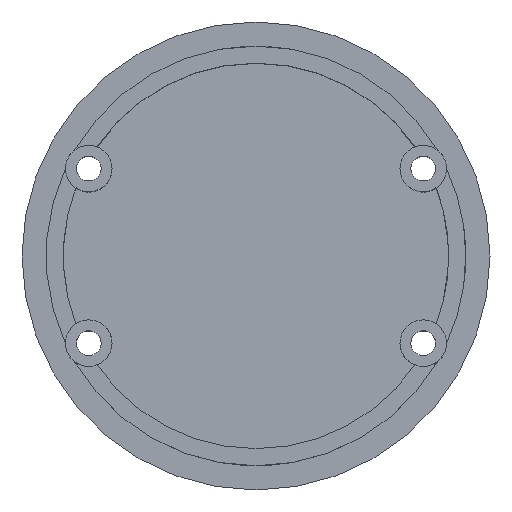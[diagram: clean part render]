
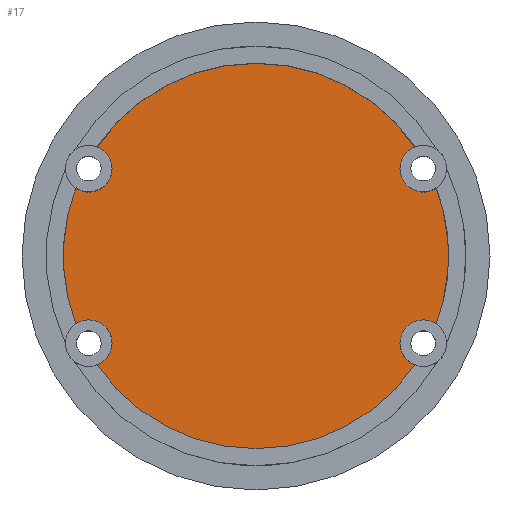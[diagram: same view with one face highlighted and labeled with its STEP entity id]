
A CAD part, top view. The second image highlights one B-rep face of the part: STEP entity #17.
In plain terms, the highlighted planar face has unit normal (0, 0, 1).
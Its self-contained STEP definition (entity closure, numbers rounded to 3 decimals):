
#17 = ADVANCED_FACE('',(#18),#119,.T.);
#18 = FACE_BOUND('',#19,.T.);
#19 = EDGE_LOOP('',(#20,#31,#40,#49,#58,#67,#76,#85,#94,#103,#112));
#20 = ORIENTED_EDGE('',*,*,#21,.F.);
#21 = EDGE_CURVE('',#22,#24,#26,.T.);
#22 = VERTEX_POINT('',#23);
#23 = CARTESIAN_POINT('',(-21.854,-14.988,4.));
#24 = VERTEX_POINT('',#25);
#25 = CARTESIAN_POINT('',(-19.8,-12.,4.));
#26 = CIRCLE('',#27,3.2);
#27 = AXIS2_PLACEMENT_3D('',#28,#29,#30);
#28 = CARTESIAN_POINT('',(-23.,-12.,4.));
#29 = DIRECTION('',(0.,0.,1.));
#30 = DIRECTION('',(1.,0.,0.));
#31 = ORIENTED_EDGE('',*,*,#32,.T.);
#32 = EDGE_CURVE('',#22,#33,#35,.T.);
#33 = VERTEX_POINT('',#34);
#34 = CARTESIAN_POINT('',(21.854,-14.988,4.));
#35 = CIRCLE('',#36,26.5);
#36 = AXIS2_PLACEMENT_3D('',#37,#38,#39);
#37 = CARTESIAN_POINT('',(0.,0.,4.));
#38 = DIRECTION('',(0.,0.,1.));
#39 = DIRECTION('',(1.,0.,0.));
#40 = ORIENTED_EDGE('',*,*,#41,.F.);
#41 = EDGE_CURVE('',#42,#33,#44,.T.);
#42 = VERTEX_POINT('',#43);
#43 = CARTESIAN_POINT('',(24.795,-9.351,4.));
#44 = CIRCLE('',#45,3.2);
#45 = AXIS2_PLACEMENT_3D('',#46,#47,#48);
#46 = CARTESIAN_POINT('',(23.,-12.,4.));
#47 = DIRECTION('',(0.,0.,1.));
#48 = DIRECTION('',(1.,0.,0.));
#49 = ORIENTED_EDGE('',*,*,#50,.T.);
#50 = EDGE_CURVE('',#42,#51,#53,.T.);
#51 = VERTEX_POINT('',#52);
#52 = CARTESIAN_POINT('',(26.5,0.,4.));
#53 = CIRCLE('',#54,26.5);
#54 = AXIS2_PLACEMENT_3D('',#55,#56,#57);
#55 = CARTESIAN_POINT('',(0.,0.,4.));
#56 = DIRECTION('',(0.,0.,1.));
#57 = DIRECTION('',(1.,0.,0.));
#58 = ORIENTED_EDGE('',*,*,#59,.T.);
#59 = EDGE_CURVE('',#51,#60,#62,.T.);
#60 = VERTEX_POINT('',#61);
#61 = CARTESIAN_POINT('',(24.795,9.351,4.));
#62 = CIRCLE('',#63,26.5);
#63 = AXIS2_PLACEMENT_3D('',#64,#65,#66);
#64 = CARTESIAN_POINT('',(0.,0.,4.));
#65 = DIRECTION('',(0.,0.,1.));
#66 = DIRECTION('',(1.,0.,0.));
#67 = ORIENTED_EDGE('',*,*,#68,.F.);
#68 = EDGE_CURVE('',#69,#60,#71,.T.);
#69 = VERTEX_POINT('',#70);
#70 = CARTESIAN_POINT('',(21.854,14.988,4.));
#71 = CIRCLE('',#72,3.2);
#72 = AXIS2_PLACEMENT_3D('',#73,#74,#75);
#73 = CARTESIAN_POINT('',(23.,12.,4.));
#74 = DIRECTION('',(0.,0.,1.));
#75 = DIRECTION('',(1.,0.,0.));
#76 = ORIENTED_EDGE('',*,*,#77,.T.);
#77 = EDGE_CURVE('',#69,#78,#80,.T.);
#78 = VERTEX_POINT('',#79);
#79 = CARTESIAN_POINT('',(-21.854,14.988,4.));
#80 = CIRCLE('',#81,26.5);
#81 = AXIS2_PLACEMENT_3D('',#82,#83,#84);
#82 = CARTESIAN_POINT('',(0.,0.,4.));
#83 = DIRECTION('',(0.,0.,1.));
#84 = DIRECTION('',(1.,0.,0.));
#85 = ORIENTED_EDGE('',*,*,#86,.F.);
#86 = EDGE_CURVE('',#87,#78,#89,.T.);
#87 = VERTEX_POINT('',#88);
#88 = CARTESIAN_POINT('',(-19.8,12.,4.));
#89 = CIRCLE('',#90,3.2);
#90 = AXIS2_PLACEMENT_3D('',#91,#92,#93);
#91 = CARTESIAN_POINT('',(-23.,12.,4.));
#92 = DIRECTION('',(0.,0.,1.));
#93 = DIRECTION('',(1.,0.,0.));
#94 = ORIENTED_EDGE('',*,*,#95,.F.);
#95 = EDGE_CURVE('',#96,#87,#98,.T.);
#96 = VERTEX_POINT('',#97);
#97 = CARTESIAN_POINT('',(-24.795,9.351,4.));
#98 = CIRCLE('',#99,3.2);
#99 = AXIS2_PLACEMENT_3D('',#100,#101,#102);
#100 = CARTESIAN_POINT('',(-23.,12.,4.));
#101 = DIRECTION('',(0.,0.,1.));
#102 = DIRECTION('',(1.,0.,0.));
#103 = ORIENTED_EDGE('',*,*,#104,.T.);
#104 = EDGE_CURVE('',#96,#105,#107,.T.);
#105 = VERTEX_POINT('',#106);
#106 = CARTESIAN_POINT('',(-24.795,-9.351,4.));
#107 = CIRCLE('',#108,26.5);
#108 = AXIS2_PLACEMENT_3D('',#109,#110,#111);
#109 = CARTESIAN_POINT('',(0.,0.,4.));
#110 = DIRECTION('',(0.,0.,1.));
#111 = DIRECTION('',(1.,0.,0.));
#112 = ORIENTED_EDGE('',*,*,#113,.F.);
#113 = EDGE_CURVE('',#24,#105,#114,.T.);
#114 = CIRCLE('',#115,3.2);
#115 = AXIS2_PLACEMENT_3D('',#116,#117,#118);
#116 = CARTESIAN_POINT('',(-23.,-12.,4.));
#117 = DIRECTION('',(0.,0.,1.));
#118 = DIRECTION('',(1.,0.,0.));
#119 = PLANE('',#120);
#120 = AXIS2_PLACEMENT_3D('',#121,#122,#123);
#121 = CARTESIAN_POINT('',(0.,0.,4.));
#122 = DIRECTION('',(0.,0.,1.));
#123 = DIRECTION('',(1.,0.,0.));
